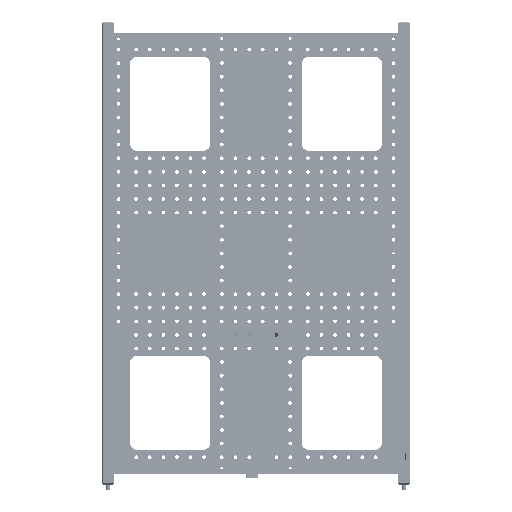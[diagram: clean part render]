
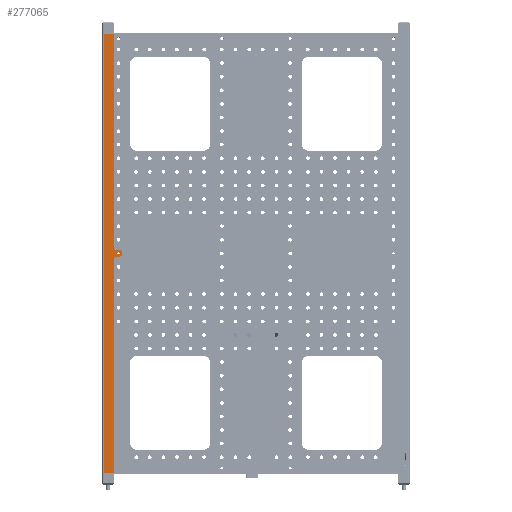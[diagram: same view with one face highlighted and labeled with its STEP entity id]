
A CAD part, front view. The second image highlights one B-rep face of the part: STEP entity #277065.
In plain terms, the highlighted planar face has unit normal (0, -1, 0).
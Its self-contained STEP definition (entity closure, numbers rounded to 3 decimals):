
#8026 = EDGE_CURVE ( 'NONE', #172660, #95612, #208123, .T. ) ;
#9544 = DIRECTION ( 'NONE',  ( 0., 0., 1. ) ) ;
#12977 = ORIENTED_EDGE ( 'NONE', *, *, #290365, .T. ) ;
#19886 = EDGE_CURVE ( 'NONE', #324542, #20189, #205002, .T. ) ;
#20189 = VERTEX_POINT ( 'NONE', #259736 ) ;
#20849 = DIRECTION ( 'NONE',  ( 1., 0., 0. ) ) ;
#23846 = CARTESIAN_POINT ( 'NONE',  ( 8.5, 0., 172.75 ) ) ;
#25203 = DIRECTION ( 'NONE',  ( 0., -1., 0. ) ) ;
#27534 = CARTESIAN_POINT ( 'NONE',  ( 14.5, 0., 170.75 ) ) ;
#27880 = DIRECTION ( 'NONE',  ( 0., 0., -1. ) ) ;
#32303 = AXIS2_PLACEMENT_3D ( 'NONE', #75190, #195716, #175885 ) ;
#33500 = CARTESIAN_POINT ( 'NONE',  ( 8.5, 0., 331.5 ) ) ;
#39752 = AXIS2_PLACEMENT_3D ( 'NONE', #49295, #276872, #27880 ) ;
#43926 = LINE ( 'NONE', #241762, #280305 ) ;
#48612 = CIRCLE ( 'NONE', #159326, 2. ) ;
#49295 = CARTESIAN_POINT ( 'NONE',  ( 12., 0., 170.25 ) ) ;
#54356 = EDGE_CURVE ( 'NONE', #179346, #264515, #48612, .T. ) ;
#56765 = CARTESIAN_POINT ( 'NONE',  ( 8.5, 0., 9. ) ) ;
#58744 = VERTEX_POINT ( 'NONE', #320963 ) ;
#59937 = CARTESIAN_POINT ( 'NONE',  ( 12., 0., 171.05 ) ) ;
#60527 = EDGE_CURVE ( 'NONE', #58744, #309682, #178262, .T. ) ;
#63848 = DIRECTION ( 'NONE',  ( 0., -1., 0. ) ) ;
#71516 = ORIENTED_EDGE ( 'NONE', *, *, #8026, .T. ) ;
#73680 = AXIS2_PLACEMENT_3D ( 'NONE', #151448, #258487, #251980 ) ;
#75190 = CARTESIAN_POINT ( 'NONE',  ( 10.5, 0., 174.75 ) ) ;
#77372 = ORIENTED_EDGE ( 'NONE', *, *, #174234, .T. ) ;
#77620 = DIRECTION ( 'NONE',  ( 0., 0., -1. ) ) ;
#78124 = LINE ( 'NONE', #305588, #267169 ) ;
#85280 = CARTESIAN_POINT ( 'NONE',  ( 14.5, 0., 167.75 ) ) ;
#85329 = CARTESIAN_POINT ( 'NONE',  ( 1., 0., 9. ) ) ;
#94206 = EDGE_CURVE ( 'NONE', #264515, #249818, #173907, .T. ) ;
#95612 = VERTEX_POINT ( 'NONE', #125132 ) ;
#98089 = ORIENTED_EDGE ( 'NONE', *, *, #294037, .F. ) ;
#98506 = CARTESIAN_POINT ( 'NONE',  ( 10.5, 0., 165.75 ) ) ;
#100187 = VECTOR ( 'NONE', #9544, 1000. ) ;
#100979 = DIRECTION ( 'NONE',  ( 0., 0., 1. ) ) ;
#102175 = VECTOR ( 'NONE', #259198, 1000. ) ;
#103688 = ORIENTED_EDGE ( 'NONE', *, *, #108239, .T. ) ;
#104518 = CIRCLE ( 'NONE', #109934, 2. ) ;
#105910 = CARTESIAN_POINT ( 'NONE',  ( 50., 0., 331.5 ) ) ;
#106582 = VECTOR ( 'NONE', #170774, 1000. ) ;
#107307 = CARTESIAN_POINT ( 'NONE',  ( 8.5, 0., 500009. ) ) ;
#108239 = EDGE_CURVE ( 'NONE', #208956, #324542, #223414, .T. ) ;
#109934 = AXIS2_PLACEMENT_3D ( 'NONE', #98506, #171104, #273276 ) ;
#110072 = CARTESIAN_POINT ( 'NONE',  ( 10.5, 0., 172.75 ) ) ;
#110237 = ORIENTED_EDGE ( 'NONE', *, *, #54356, .T. ) ;
#116595 = DIRECTION ( 'NONE',  ( 0., 0., 1. ) ) ;
#120828 = ORIENTED_EDGE ( 'NONE', *, *, #173076, .T. ) ;
#125132 = CARTESIAN_POINT ( 'NONE',  ( 1., 0., 331.5 ) ) ;
#125869 = CARTESIAN_POINT ( 'NONE',  ( 10.5, 0., 167.75 ) ) ;
#133782 = VECTOR ( 'NONE', #77620, 1000. ) ;
#143026 = ORIENTED_EDGE ( 'NONE', *, *, #19886, .T. ) ;
#151448 = CARTESIAN_POINT ( 'NONE',  ( 8.5, 0., 500009. ) ) ;
#154051 = DIRECTION ( 'NONE',  ( 0., 0., -1. ) ) ;
#156089 = VERTEX_POINT ( 'NONE', #163754 ) ;
#158236 = LINE ( 'NONE', #258748, #207523 ) ;
#159326 = AXIS2_PLACEMENT_3D ( 'NONE', #227870, #25203, #100979 ) ;
#163754 = CARTESIAN_POINT ( 'NONE',  ( 8.5, 0., 174.75 ) ) ;
#168323 = VERTEX_POINT ( 'NONE', #85329 ) ;
#170774 = DIRECTION ( 'NONE',  ( 1., 0., 0. ) ) ;
#171104 = DIRECTION ( 'NONE',  ( 0., 1., 0. ) ) ;
#171859 = ORIENTED_EDGE ( 'NONE', *, *, #306543, .F. ) ;
#172660 = VERTEX_POINT ( 'NONE', #33500 ) ;
#173076 = EDGE_CURVE ( 'NONE', #249818, #156089, #174461, .T. ) ;
#173907 = LINE ( 'NONE', #23846, #293729 ) ;
#174234 = EDGE_CURVE ( 'NONE', #168323, #309682, #43926, .T. ) ;
#174461 = CIRCLE ( 'NONE', #32303, 2. ) ;
#175885 = DIRECTION ( 'NONE',  ( 0., 0., 1. ) ) ;
#178262 = LINE ( 'NONE', #107307, #133782 ) ;
#179346 = VERTEX_POINT ( 'NONE', #27534 ) ;
#187576 = LINE ( 'NONE', #85280, #100187 ) ;
#188339 = EDGE_CURVE ( 'NONE', #259489, #264606, #194851, .T. ) ;
#189844 = CARTESIAN_POINT ( 'NONE',  ( 12., 0., 169.45 ) ) ;
#194851 = CIRCLE ( 'NONE', #205469, 0.8 ) ;
#195716 = DIRECTION ( 'NONE',  ( 0., 1., 0. ) ) ;
#197147 = CARTESIAN_POINT ( 'NONE',  ( 8.5, 0., 167.75 ) ) ;
#201007 = ORIENTED_EDGE ( 'NONE', *, *, #94206, .T. ) ;
#204184 = FACE_OUTER_BOUND ( 'NONE', #283138, .T. ) ;
#205002 = CIRCLE ( 'NONE', #320948, 2. ) ;
#205469 = AXIS2_PLACEMENT_3D ( 'NONE', #267247, #268890, #221014 ) ;
#207523 = VECTOR ( 'NONE', #233975, 1000. ) ;
#208123 = LINE ( 'NONE', #105910, #102175 ) ;
#208956 = VERTEX_POINT ( 'NONE', #125869 ) ;
#211315 = CARTESIAN_POINT ( 'NONE',  ( 12.5, 0., 172.75 ) ) ;
#219365 = ORIENTED_EDGE ( 'NONE', *, *, #269745, .F. ) ;
#221014 = DIRECTION ( 'NONE',  ( 0., 0., -1. ) ) ;
#223414 = LINE ( 'NONE', #197147, #106582 ) ;
#227870 = CARTESIAN_POINT ( 'NONE',  ( 12.5, 0., 170.75 ) ) ;
#228200 = EDGE_CURVE ( 'NONE', #20189, #179346, #187576, .T. ) ;
#233975 = DIRECTION ( 'NONE',  ( 0., 0., 1. ) ) ;
#240352 = ORIENTED_EDGE ( 'NONE', *, *, #188339, .F. ) ;
#241762 = CARTESIAN_POINT ( 'NONE',  ( 3., 0., 9. ) ) ;
#248035 = DIRECTION ( 'NONE',  ( -1., 0., 0. ) ) ;
#249818 = VERTEX_POINT ( 'NONE', #110072 ) ;
#251220 = CARTESIAN_POINT ( 'NONE',  ( 12.5, 0., 167.75 ) ) ;
#251980 = DIRECTION ( 'NONE',  ( 0., 0., 1. ) ) ;
#258487 = DIRECTION ( 'NONE',  ( 0., 1., 0. ) ) ;
#258748 = CARTESIAN_POINT ( 'NONE',  ( 1., 0., 500009. ) ) ;
#259198 = DIRECTION ( 'NONE',  ( -1., 0., 0. ) ) ;
#259489 = VERTEX_POINT ( 'NONE', #59937 ) ;
#259736 = CARTESIAN_POINT ( 'NONE',  ( 14.5, 0., 169.75 ) ) ;
#260849 = EDGE_LOOP ( 'NONE', ( #171859, #240352 ) ) ;
#264515 = VERTEX_POINT ( 'NONE', #211315 ) ;
#264606 = VERTEX_POINT ( 'NONE', #189844 ) ;
#266613 = CARTESIAN_POINT ( 'NONE',  ( 12.5, 0., 169.75 ) ) ;
#267169 = VECTOR ( 'NONE', #154051, 1000. ) ;
#267247 = CARTESIAN_POINT ( 'NONE',  ( 12., 0., 170.25 ) ) ;
#268890 = DIRECTION ( 'NONE',  ( 0., -1., 0. ) ) ;
#269745 = EDGE_CURVE ( 'NONE', #172660, #156089, #78124, .T. ) ;
#271632 = CIRCLE ( 'NONE', #39752, 0.8 ) ;
#273276 = DIRECTION ( 'NONE',  ( 0., 0., 1. ) ) ;
#276872 = DIRECTION ( 'NONE',  ( 0., -1., 0. ) ) ;
#277065 = ADVANCED_FACE ( 'NONE', ( #204184, #283204 ), #284816, .F. ) ;
#277745 = ORIENTED_EDGE ( 'NONE', *, *, #228200, .T. ) ;
#280305 = VECTOR ( 'NONE', #20849, 1000. ) ;
#283138 = EDGE_LOOP ( 'NONE', ( #277745, #110237, #201007, #120828, #219365, #71516, #98089, #77372, #307279, #12977, #103688, #143026 ) ) ;
#283204 = FACE_BOUND ( 'NONE', #260849, .T. ) ;
#284816 = PLANE ( 'NONE',  #73680 ) ;
#290365 = EDGE_CURVE ( 'NONE', #58744, #208956, #104518, .T. ) ;
#293729 = VECTOR ( 'NONE', #248035, 1000. ) ;
#294037 = EDGE_CURVE ( 'NONE', #168323, #95612, #158236, .T. ) ;
#305588 = CARTESIAN_POINT ( 'NONE',  ( 8.5, 0., 500009. ) ) ;
#306543 = EDGE_CURVE ( 'NONE', #264606, #259489, #271632, .T. ) ;
#307279 = ORIENTED_EDGE ( 'NONE', *, *, #60527, .F. ) ;
#309682 = VERTEX_POINT ( 'NONE', #56765 ) ;
#320948 = AXIS2_PLACEMENT_3D ( 'NONE', #266613, #63848, #116595 ) ;
#320963 = CARTESIAN_POINT ( 'NONE',  ( 8.5, 0., 165.75 ) ) ;
#324542 = VERTEX_POINT ( 'NONE', #251220 ) ;
